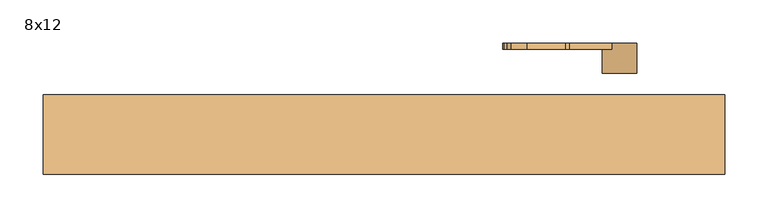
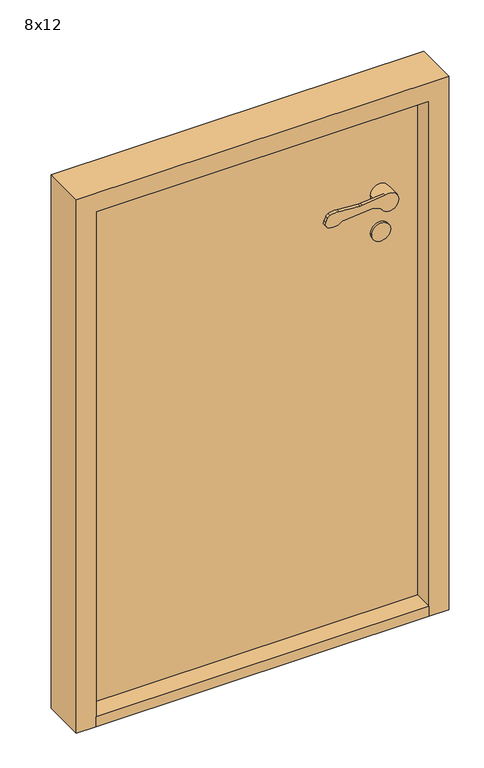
"""IFC4 building model written with IfcOpenShell, lengths in millimetres: door geometry, Innerdør Slett (Diplomat) : 8x12."""

from ifc_helpers import new_model, si_unit, point, frame, frame_2d, origin, origin_with_axes, place, context, project, spatial, polyline, circle_curve, trimmed, segment, composite_curve, outline, extrude, source, transform, mapped, element, save
from ifc_brep_helpers import plane_surface, cylinder_surface, revolved_surface, advanced_brep


def door_8x12_f3acdaa1(model_context):
    return source(origin(), model_context, "Body", "SolidModel", [
        advanced_brep(
        [(293.9611305, -45.0, 949.1175955), (308.3841161, -45.0, 942.6204086), (346.379633, -45.0, 951.3474568), (317.2687793, -45.0, 969.1517356), (268.6891233, -45.0, 964.26032), (263.6202158, -45.0, 964.1804415), (218.8963175, -45.0, 967.2639242), (200.3175669, -45.0, 964.8810513), (195.505009, -45.0, 959.9624074), (191.8691983, -45.0, 951.8913379), (196.721536, -45.0, 938.7393398), (226.0476109, -45.0, 943.6260011), (288.8520664, -45.0, 949.9496913), (268.6891233, -37.8915284, 964.26032), (317.2687793, -37.8915284, 969.1517356), (306.379633, -37.8915284, 951.3474568), (308.3841161, -37.8915284, 942.6204086), (293.9611305, -37.8915284, 949.1175955), (288.8520664, -37.8915284, 949.9496913), (226.0476109, -37.8915284, 943.6260011), (196.721536, -37.8915284, 938.7393398), (191.8691983, -37.8915284, 951.8913379), (195.505009, -37.8915284, 959.9624074), (200.3175669, -37.8915284, 964.8810513), (218.8963175, -37.8915284, 967.2639242), (263.6202158, -37.8915284, 964.1804415), (346.379633, -10.0, 951.3474568), (306.379633, -10.0, 951.3474568)],
        [
            (0, 1),
            (1, 2, circle_curve(frame((326.379633, -45.0, 951.3474568), z_axis=(0.0, -1.0, 0.0), x_axis=(-1.0, 0.0, 0.0)), 20.0)),
            (2, 3, circle_curve(frame((326.379633, -45.0, 951.3474568), z_axis=(0.0, -1.0, 0.0), x_axis=(-1.0, 0.0, 0.0)), 20.0)),
            (3, 4),
            (4, 5, circle_curve(frame((265.683663, -45.0, 994.1093938), z_axis=(0.0, 1.0, 0.0), x_axis=(-0.9949691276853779, 0.0, -0.10018200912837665)), 30.0)),
            (5, 6),
            (6, 7, circle_curve(frame((213.2326797, -45.0, 937.8033877), z_axis=(0.0, -1.0, 0.0), x_axis=(-0.9949691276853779, 0.0, -0.10018200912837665)), 30.0)),
            (7, 8, circle_curve(frame((204.6226045, -45.0, 955.8551634), z_axis=(0.0, -1.0, 0.0), x_axis=(-0.9949691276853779, 0.0, -0.10018200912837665)), 10.0)),
            (8, 9),
            (9, 10, circle_curve(frame((200.9867937, -45.0, 947.7840939), z_axis=(0.0, -1.0, 0.0), x_axis=(-0.9949691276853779, 0.0, -0.10018200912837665)), 10.0)),
            (10, 11, circle_curve(frame((207.8569644, -45.0, 962.352734), z_axis=(0.0, -1.0, 0.0), x_axis=(-0.9949691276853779, 0.0, -0.10018200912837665)), 26.1072815)),
            (11, 12),
            (12, 0, circle_curve(frame((289.8538865, -45.0, 940.0), z_axis=(0.0, 1.0, 0.0), x_axis=(-0.9949691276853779, 0.0, -0.10018200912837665)), 10.0)),
            (13, 14),
            (14, 15, circle_curve(frame((326.379633, -37.8915284, 951.3474568), z_axis=(0.0, -1.0, 0.0), x_axis=(-1.0, 0.0, 0.0)), 20.0)),
            (15, 16, circle_curve(frame((326.379633, -37.8915284, 951.3474568), z_axis=(0.0, -1.0, 0.0), x_axis=(-1.0, 0.0, 0.0)), 20.0)),
            (16, 17),
            (17, 18, circle_curve(frame((289.8538865, -37.8915284, 940.0), z_axis=(0.0, -1.0, 0.0), x_axis=(-0.9949691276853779, 0.0, -0.10018200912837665)), 10.0)),
            (18, 19),
            (19, 20, circle_curve(frame((207.8569644, -37.8915284, 962.352734), z_axis=(0.0, 1.0, 0.0), x_axis=(-0.9949691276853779, 0.0, -0.10018200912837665)), 26.1072815)),
            (20, 21, circle_curve(frame((200.9867937, -37.8915284, 947.7840939), z_axis=(0.0, 1.0, 0.0), x_axis=(-0.9949691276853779, 0.0, -0.10018200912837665)), 10.0)),
            (21, 22),
            (22, 23, circle_curve(frame((204.6226045, -37.8915284, 955.8551634), z_axis=(0.0, 1.0, 0.0), x_axis=(-0.9949691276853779, 0.0, -0.10018200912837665)), 10.0)),
            (23, 24, circle_curve(frame((213.2326797, -37.8915284, 937.8033877), z_axis=(0.0, 1.0, 0.0), x_axis=(-0.9949691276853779, 0.0, -0.10018200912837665)), 30.0)),
            (24, 25),
            (25, 13, circle_curve(frame((265.683663, -37.8915284, 994.1093938), z_axis=(0.0, -1.0, 0.0), x_axis=(-0.9949691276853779, 0.0, -0.10018200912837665)), 30.0)),
            (3, 14),
            (13, 4),
            (16, 1),
            (0, 17),
            (12, 18),
            (11, 19),
            (10, 20),
            (9, 21),
            (8, 22),
            (7, 23),
            (6, 24),
            (5, 25),
            (26, 27, circle_curve(frame((326.379633, -10.0, 951.3474568), z_axis=(0.0, 1.0, 0.0), x_axis=(-1.0, 0.0, 0.0)), 20.0)),
            (27, 26, circle_curve(frame((326.379633, -10.0, 951.3474568), z_axis=(0.0, 1.0, 0.0), x_axis=(-1.0, 0.0, 0.0)), 20.0)),
            (26, 2),
            (15, 27),
        ],
        [
            plane_surface(frame((317.6960588, -45.0, 969.1947577), z_axis=(0.0, -1.0000000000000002, 0.0), x_axis=(0.9949691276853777, 0.0, 0.10018200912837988))),
            plane_surface(frame((317.6960588, -37.8915284, 969.1947577), z_axis=(0.0, 1.0000000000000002, 0.0), x_axis=(-0.9949691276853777, 0.0, -0.10018200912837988))),
            plane_surface(frame((268.6891233, -45.0, 964.26032), z_axis=(-0.10018200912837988, 0.0, 0.9949691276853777), x_axis=(0.0, 1.0, 0.0))),
            plane_surface(frame((326.9687366, -45.0, 934.2485115), z_axis=(-0.41072439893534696, 0.0, -0.91175954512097), x_axis=(0.0, 1.0, 0.0))),
            revolved_surface(polyline([(279.9041952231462, -37.8915284, 938.9981799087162), (279.9041952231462, -45.0, 938.9981799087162)]), (289.8538865, -37.8915284, 940.0), (0.0, 1.0, 0.0)),
            plane_surface(frame((288.8520664, -45.0, 949.9496913), z_axis=(0.10018200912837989, 0.0, -0.9949691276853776), x_axis=(0.0, 1.0, 0.0))),
            cylinder_surface(frame((207.8569644, -37.8915284, 962.352734), z_axis=(0.0, -1.0, 0.0), x_axis=(-0.9949691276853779, 0.0, -0.10018200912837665)), 26.1072815),
            cylinder_surface(frame((200.9867937, -37.8915284, 947.7840939), z_axis=(0.0, -1.0, 0.0), x_axis=(-0.9949691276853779, 0.0, -0.10018200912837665)), 10.0),
            plane_surface(frame((191.8691983, -45.0, 951.8913379), z_axis=(-0.9117595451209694, 0.0, 0.41072439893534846), x_axis=(0.0, 1.0, 0.0))),
            cylinder_surface(frame((204.6226045, -37.8915284, 955.8551634), z_axis=(0.0, -1.0, 0.0), x_axis=(-0.9949691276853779, 0.0, -0.10018200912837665)), 10.0),
            cylinder_surface(frame((213.2326797, -37.8915284, 937.8033877), z_axis=(0.0, -1.0, 0.0), x_axis=(-0.9949691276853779, 0.0, -0.10018200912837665)), 30.0),
            plane_surface(frame((218.8963175, -45.0, 967.2639242), z_axis=(0.06878157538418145, 0.0, 0.9976317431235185), x_axis=(0.0, 1.0, 0.0))),
            revolved_surface(polyline([(235.8345891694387, -37.8915284, 991.1039335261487), (235.8345891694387, -45.0, 991.1039335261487)]), (265.683663, -37.8915284, 994.1093938), (0.0, 1.0, 0.0)),
            plane_surface(frame((306.379633, -10.0, 951.3474568), z_axis=(0.0, 1.0, 0.0), x_axis=(0.0, 0.0, -1.0))),
            cylinder_surface(frame((326.379633, -10.0, 951.3474568), z_axis=(0.0, -1.0, 0.0), x_axis=(-1.0, 0.0, 0.0)), 20.0),
        ],
        [
            (0, [[1, 2, 3, 4, 5, 6, 7, 8, 9, 10, 11, 12, 13]]),
            (1, [[14, 15, 16, 17, 18, 19, 20, 21, 22, 23, 24, 25, 26]]),
            (2, [[-4, 27, -14, 28]]),
            (3, [[-17, 29, -1, 30]]),
            (4, [[31, -18, -30, -13]]),
            (5, [[32, -19, -31, -12]]),
            (6, [[33, -20, -32, -11]]),
            (7, [[34, -21, -33, -10]]),
            (8, [[35, -22, -34, -9]]),
            (9, [[36, -23, -35, -8]]),
            (10, [[37, -24, -36, -7]]),
            (11, [[38, -25, -37, -6]]),
            (12, [[-28, -26, -38, -5]]),
            (13, [[39, 40]]),
            (14, [[41, -2, -29, -16, 42, -39]]),
            (14, [[-42, -15, -27, -3, -41, -40]]),
        ],
    ),
        extrude(outline(composite_curve([segment(trimmed(circle_curve(frame_2d((866.3474568, 326.379633)), 20.0), [point((866.3474568, 346.379633))], [point((866.3474568, 306.379633))], False, "CARTESIAN"), True, "CONTINUOUS"), segment(trimmed(circle_curve(frame_2d((866.3474568, 326.379633)), 20.0), [point((866.3474568, 306.379633))], [point((866.3474568, 346.379633))], False, "CARTESIAN"), True, "CONTINUOUS")], self_intersect=False)), frame((0.0, -15.0, 0.0), z_axis=(0.0, 1.0, 0.0), x_axis=(0.0, 0.0, 1.0)), (0.0, 0.0, 1.0), 5.0),
        advanced_brep(
        [(293.9611305, 100.0, 949.1175955), (288.8520664, 100.0, 949.9496913), (226.0476109, 100.0, 943.6260011), (196.721536, 100.0, 938.7393398), (191.8691983, 100.0, 951.8913379), (195.505009, 100.0, 959.9624074), (200.3175669, 100.0, 964.8810513), (218.8963175, 100.0, 967.2639242), (263.6202158, 100.0, 964.1804415), (268.6891233, 100.0, 964.26032), (317.2687793, 100.0, 969.1517356), (346.379633, 100.0, 951.3474568), (308.3841161, 100.0, 942.6204086), (268.6891233, 92.8915284, 964.26032), (263.6202158, 92.8915284, 964.1804415), (218.8963175, 92.8915284, 967.2639242), (200.3175669, 92.8915284, 964.8810513), (195.505009, 92.8915284, 959.9624074), (191.8691983, 92.8915284, 951.8913379), (196.721536, 92.8915284, 938.7393398), (226.0476109, 92.8915284, 943.6260011), (288.8520664, 92.8915284, 949.9496913), (293.9611305, 92.8915284, 949.1175955), (308.3841161, 92.8915284, 942.6204086), (306.379633, 92.8915284, 951.3474568), (317.2687793, 92.8915284, 969.1517356), (346.379633, 65.0, 951.3474568), (306.379633, 65.0, 951.3474568)],
        [
            (0, 1, circle_curve(frame((289.8538865, 100.0, 940.0), z_axis=(0.0, -1.0, 0.0), x_axis=(-0.9949691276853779, 0.0, -0.10018200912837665)), 10.0)),
            (1, 2),
            (2, 3, circle_curve(frame((207.8569644, 100.0, 962.352734), z_axis=(0.0, 1.0, 0.0), x_axis=(-0.9949691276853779, 0.0, -0.10018200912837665)), 26.1072815)),
            (3, 4, circle_curve(frame((200.9867937, 100.0, 947.7840939), z_axis=(0.0, 1.0, 0.0), x_axis=(-0.9949691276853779, 0.0, -0.10018200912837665)), 10.0)),
            (4, 5),
            (5, 6, circle_curve(frame((204.6226045, 100.0, 955.8551634), z_axis=(0.0, 1.0, 0.0), x_axis=(-0.9949691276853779, 0.0, -0.10018200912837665)), 10.0)),
            (6, 7, circle_curve(frame((213.2326797, 100.0, 937.8033877), z_axis=(0.0, 1.0, 0.0), x_axis=(-0.9949691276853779, 0.0, -0.10018200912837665)), 30.0)),
            (7, 8),
            (8, 9, circle_curve(frame((265.683663, 100.0, 994.1093938), z_axis=(0.0, -1.0, 0.0), x_axis=(-0.9949691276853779, 0.0, -0.10018200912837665)), 30.0)),
            (9, 10),
            (10, 11, circle_curve(frame((326.379633, 100.0, 951.3474568), z_axis=(0.0, 1.0, 0.0), x_axis=(-1.0, 0.0, 0.0)), 20.0)),
            (11, 12, circle_curve(frame((326.379633, 100.0, 951.3474568), z_axis=(0.0, 1.0, 0.0), x_axis=(-1.0, 0.0, 0.0)), 20.0)),
            (12, 0),
            (13, 14, circle_curve(frame((265.683663, 92.8915284, 994.1093938), z_axis=(0.0, 1.0, 0.0), x_axis=(-0.9949691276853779, 0.0, -0.10018200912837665)), 30.0)),
            (14, 15),
            (15, 16, circle_curve(frame((213.2326797, 92.8915284, 937.8033877), z_axis=(0.0, -1.0, 0.0), x_axis=(-0.9949691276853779, 0.0, -0.10018200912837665)), 30.0)),
            (16, 17, circle_curve(frame((204.6226045, 92.8915284, 955.8551634), z_axis=(0.0, -1.0, 0.0), x_axis=(-0.9949691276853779, 0.0, -0.10018200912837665)), 10.0)),
            (17, 18),
            (18, 19, circle_curve(frame((200.9867937, 92.8915284, 947.7840939), z_axis=(0.0, -1.0, 0.0), x_axis=(-0.9949691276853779, 0.0, -0.10018200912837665)), 10.0)),
            (19, 20, circle_curve(frame((207.8569644, 92.8915284, 962.352734), z_axis=(0.0, -1.0, 0.0), x_axis=(-0.9949691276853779, 0.0, -0.10018200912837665)), 26.1072815)),
            (20, 21),
            (21, 22, circle_curve(frame((289.8538865, 92.8915284, 940.0), z_axis=(0.0, 1.0, 0.0), x_axis=(-0.9949691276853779, 0.0, -0.10018200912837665)), 10.0)),
            (22, 23),
            (23, 24, circle_curve(frame((326.379633, 92.8915284, 951.3474568), z_axis=(0.0, 1.0, 0.0), x_axis=(-1.0, 0.0, 0.0)), 20.0)),
            (24, 25, circle_curve(frame((326.379633, 92.8915284, 951.3474568), z_axis=(0.0, 1.0, 0.0), x_axis=(-1.0, 0.0, 0.0)), 20.0)),
            (25, 13),
            (9, 13),
            (25, 10),
            (22, 0),
            (12, 23),
            (21, 1),
            (20, 2),
            (19, 3),
            (18, 4),
            (17, 5),
            (16, 6),
            (15, 7),
            (14, 8),
            (26, 27, circle_curve(frame((326.379633, 65.0, 951.3474568), z_axis=(0.0, -1.0, 0.0), x_axis=(-1.0, 0.0, 0.0)), 20.0)),
            (27, 26, circle_curve(frame((326.379633, 65.0, 951.3474568), z_axis=(0.0, -1.0, 0.0), x_axis=(-1.0, 0.0, 0.0)), 20.0)),
            (27, 24),
            (11, 26),
        ],
        [
            plane_surface(frame((317.6960588, 100.0, 969.1947577), z_axis=(0.0, 1.0000000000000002, 0.0), x_axis=(0.9949691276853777, 0.0, 0.10018200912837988))),
            plane_surface(frame((317.6960588, 92.8915284, 969.1947577), z_axis=(0.0, -1.0000000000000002, 0.0), x_axis=(-0.9949691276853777, 0.0, -0.10018200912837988))),
            plane_surface(frame((268.6891233, 100.0, 964.26032), z_axis=(-0.10018200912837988, 0.0, 0.9949691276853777), x_axis=(0.0, -1.0, 0.0))),
            plane_surface(frame((326.9687366, 100.0, 934.2485115), z_axis=(-0.41072439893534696, 0.0, -0.91175954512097), x_axis=(0.0, -1.0, 0.0))),
            revolved_surface(polyline([(279.9041952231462, 92.8915284, 938.9981799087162), (279.9041952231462, 100.0, 938.9981799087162)]), (289.8538865, 92.8915284, 940.0), (0.0, -1.0, 0.0)),
            plane_surface(frame((288.8520664, 100.0, 949.9496913), z_axis=(0.10018200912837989, 0.0, -0.9949691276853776), x_axis=(0.0, -1.0, 0.0))),
            cylinder_surface(frame((207.8569644, 92.8915284, 962.352734), z_axis=(0.0, 1.0, 0.0), x_axis=(-0.9949691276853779, 0.0, -0.10018200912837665)), 26.1072815),
            cylinder_surface(frame((200.9867937, 92.8915284, 947.7840939), z_axis=(0.0, 1.0, 0.0), x_axis=(-0.9949691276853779, 0.0, -0.10018200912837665)), 10.0),
            plane_surface(frame((191.8691983, 100.0, 951.8913379), z_axis=(-0.9117595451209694, 0.0, 0.41072439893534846), x_axis=(0.0, -1.0, 0.0))),
            cylinder_surface(frame((204.6226045, 92.8915284, 955.8551634), z_axis=(0.0, 1.0, 0.0), x_axis=(-0.9949691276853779, 0.0, -0.10018200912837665)), 10.0),
            cylinder_surface(frame((213.2326797, 92.8915284, 937.8033877), z_axis=(0.0, 1.0, 0.0), x_axis=(-0.9949691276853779, 0.0, -0.10018200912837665)), 30.0),
            plane_surface(frame((218.8963175, 100.0, 967.2639242), z_axis=(0.06878157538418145, 0.0, 0.9976317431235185), x_axis=(0.0, -1.0, 0.0))),
            revolved_surface(polyline([(235.8345891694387, 92.8915284, 991.1039335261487), (235.8345891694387, 100.0, 991.1039335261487)]), (265.683663, 92.8915284, 994.1093938), (0.0, -1.0, 0.0)),
            plane_surface(frame((306.379633, 65.0, 951.3474568), z_axis=(0.0, -1.0, 0.0), x_axis=(0.0, 0.0, -1.0))),
            cylinder_surface(frame((326.379633, 65.0, 951.3474568), z_axis=(0.0, 1.0, 0.0), x_axis=(-1.0, 0.0, 0.0)), 20.0),
        ],
        [
            (0, [[1, 2, 3, 4, 5, 6, 7, 8, 9, 10, 11, 12, 13]]),
            (1, [[14, 15, 16, 17, 18, 19, 20, 21, 22, 23, 24, 25, 26]]),
            (2, [[27, -26, 28, -10]]),
            (3, [[29, -13, 30, -23]]),
            (4, [[-1, -29, -22, 31]]),
            (5, [[-2, -31, -21, 32]]),
            (6, [[-3, -32, -20, 33]]),
            (7, [[-4, -33, -19, 34]]),
            (8, [[-5, -34, -18, 35]]),
            (9, [[-6, -35, -17, 36]]),
            (10, [[-7, -36, -16, 37]]),
            (11, [[-8, -37, -15, 38]]),
            (12, [[-9, -38, -14, -27]]),
            (13, [[39, 40]]),
            (14, [[-40, 41, -24, -30, -12, 42]]),
            (14, [[-39, -42, -11, -28, -25, -41]]),
        ],
    ),
        extrude(outline(composite_curve([segment(trimmed(circle_curve(frame_2d((866.3474568, 326.379633)), 20.0), [point((866.3474568, 346.379633))], [point((866.3474568, 306.379633))], False, "CARTESIAN"), True, "CONTINUOUS"), segment(trimmed(circle_curve(frame_2d((866.3474568, 326.379633)), 20.0), [point((866.3474568, 306.379633))], [point((866.3474568, 346.379633))], False, "CARTESIAN"), True, "CONTINUOUS")], self_intersect=False)), frame((0.0, 65.0, 0.0), z_axis=(0.0, 1.0, 0.0), x_axis=(0.0, 0.0, 1.0)), (0.0, 0.0, 1.0), 5.0),
        extrude(outline(polyline([(406.379633, -52.0), (-299.620367, -52.0), (-299.620367, 40.0), (406.379633, 40.0), (406.379633, -52.0)])), origin_with_axes(), (0.0, 0.0, 1.0), 22.0),
        extrude(outline(polyline([(406.379633, -10.0), (-299.620367, -10.0), (-299.620367, 40.0), (406.379633, 40.0), (406.379633, -10.0)])), frame((0.0, 0.0, 22.0), z_axis=(0.0, 0.0, 1.0), x_axis=(1.0, 0.0, 0.0)), (0.0, 0.0, 1.0), 1131.0),
        extrude(outline(polyline([(0.0, -341.620367), (0.0, -299.620367), (1153.0, -299.620367), (1153.0, 406.379633), (0.0, 406.379633), (0.0, 448.379633), (1195.0, 448.379633), (1195.0, -341.620367), (0.0, -341.620367)])), frame((0.0, -52.0, 0.0), z_axis=(0.0, 1.0, 0.0), x_axis=(0.0, 0.0, 1.0)), (0.0, 0.0, 1.0), 92.0),
    ])


if __name__ == "__main__":
    model = new_model("IFC4")
    model_context = context("Model", 3, world=origin())
    ifc_project = project(units=[si_unit("LENGTHUNIT", "METRE", prefix="MILLI")], contexts=[model_context])
    site = spatial("IfcSite", under=ifc_project)
    building = spatial("IfcBuilding", under=site)
    placement = place(None, origin())
    door_8x12_shape = door_8x12_f3acdaa1(model_context)
    element("IfcDoor", 1, ObjectType="Innerdør Slett (Diplomat) : 8x12", at=placement, inside=building, context=model_context, shape_type="MappedRepresentation", body=[
        mapped(door_8x12_shape, transform((0.0, 0.0, 0.0), x_axis=(1.0, 0.0, 0.0), y_axis=(0.0, 1.0, 0.0), z_axis=(0.0, 0.0, 1.0))),
    ])
    save(model, "model.ifc")
